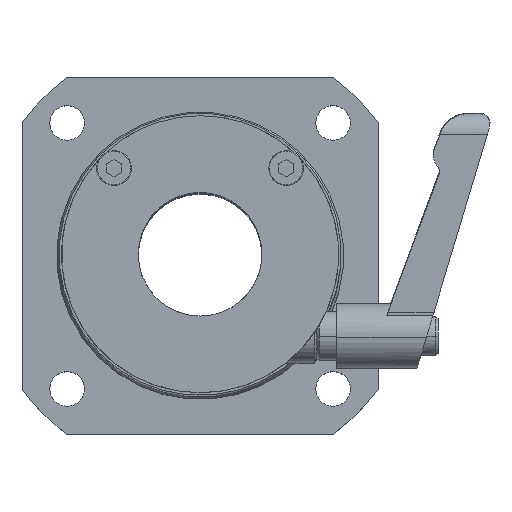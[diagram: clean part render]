
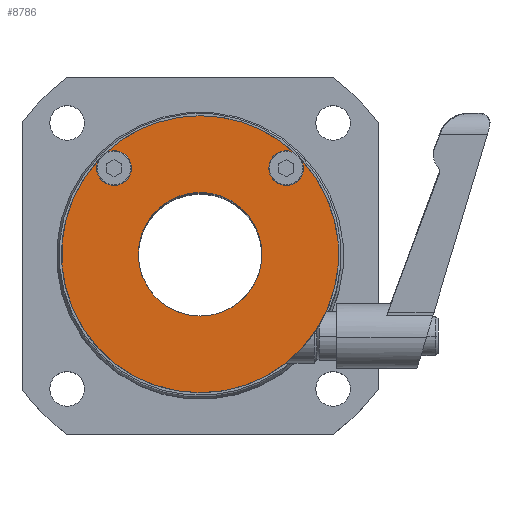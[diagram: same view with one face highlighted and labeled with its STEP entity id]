
A CAD part, top view. The second image highlights one B-rep face of the part: STEP entity #8786.
In plain terms, the highlighted planar face has unit normal (0, 0, 1).
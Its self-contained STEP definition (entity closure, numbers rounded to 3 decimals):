
#31 = EDGE_CURVE ( 'NONE', #4350, #498, #3753, .T. ) ;
#59 = DIRECTION ( 'NONE',  ( 0., 0., 1. ) ) ;
#100 = DIRECTION ( 'NONE',  ( 0., 0., 1. ) ) ;
#121 = CIRCLE ( 'NONE', #8831, 3.5 ) ;
#452 = VERTEX_POINT ( 'NONE', #5263 ) ;
#471 = EDGE_CURVE ( 'NONE', #9198, #6874, #946, .T. ) ;
#498 = VERTEX_POINT ( 'NONE', #4106 ) ;
#542 = FACE_OUTER_BOUND ( 'NONE', #679, .T. ) ;
#549 = EDGE_LOOP ( 'NONE', ( #4975, #9439 ) ) ;
#558 = EDGE_CURVE ( 'NONE', #3781, #5386, #9402, .T. ) ;
#591 = DIRECTION ( 'NONE',  ( 0., 0., 1. ) ) ;
#592 = ORIENTED_EDGE ( 'NONE', *, *, #558, .F. ) ;
#614 = CARTESIAN_POINT ( 'NONE',  ( 10.621, 16.844, 63.5 ) ) ;
#679 = EDGE_LOOP ( 'NONE', ( #8492, #9625, #592, #6168, #9638, #8297, #8794, #5773, #969, #5973 ) ) ;
#788 = EDGE_CURVE ( 'NONE', #4350, #9104, #3811, .T. ) ;
#837 = AXIS2_PLACEMENT_3D ( 'NONE', #614, #5203, #9018 ) ;
#865 = DIRECTION ( 'NONE',  ( 0., 0., 1. ) ) ;
#946 = CIRCLE ( 'NONE', #6363, 28. ) ;
#969 = ORIENTED_EDGE ( 'NONE', *, *, #6512, .F. ) ;
#1112 = EDGE_CURVE ( 'NONE', #9198, #4381, #8564, .T. ) ;
#1537 = FACE_BOUND ( 'NONE', #549, .T. ) ;
#1565 = DIRECTION ( 'NONE',  ( 0., 0., 1. ) ) ;
#1720 = CARTESIAN_POINT ( 'NONE',  ( -6.779, -0.556, 63.5 ) ) ;
#1783 = CIRCLE ( 'NONE', #7541, 3.5 ) ;
#1866 = CARTESIAN_POINT ( 'NONE',  ( 10.621, 16.844, 63.5 ) ) ;
#2296 = AXIS2_PLACEMENT_3D ( 'NONE', #1720, #1565, #4849 ) ;
#2448 = CARTESIAN_POINT ( 'NONE',  ( -20.679, 16.844, 63.5 ) ) ;
#3018 = AXIS2_PLACEMENT_3D ( 'NONE', #5673, #4806, #8804 ) ;
#3107 = EDGE_CURVE ( 'NONE', #6874, #6648, #8033, .T. ) ;
#3292 = CARTESIAN_POINT ( 'NONE',  ( 10.621, 16.844, 63.5 ) ) ;
#3314 = DIRECTION ( 'NONE',  ( 0., -1., 0. ) ) ;
#3377 = EDGE_CURVE ( 'NONE', #452, #5467, #8124, .T. ) ;
#3497 = CIRCLE ( 'NONE', #7613, 28. ) ;
#3654 = CIRCLE ( 'NONE', #10042, 3.5 ) ;
#3692 = CARTESIAN_POINT ( 'NONE',  ( 13.658, 18.583, 63.5 ) ) ;
#3753 = CIRCLE ( 'NONE', #4075, 3.5 ) ;
#3781 = VERTEX_POINT ( 'NONE', #4593 ) ;
#3807 = CARTESIAN_POINT ( 'NONE',  ( -6.779, -28.556, 63.5 ) ) ;
#3811 = CIRCLE ( 'NONE', #2296, 28. ) ;
#3984 = DIRECTION ( 'NONE',  ( 1., 0., 0. ) ) ;
#3993 = DIRECTION ( 'NONE',  ( 0., -1., 0. ) ) ;
#4075 = AXIS2_PLACEMENT_3D ( 'NONE', #7070, #5769, #6586 ) ;
#4106 = CARTESIAN_POINT ( 'NONE',  ( -27.679, 16.844, 63.5 ) ) ;
#4181 = DIRECTION ( 'NONE',  ( 1., 0., 0. ) ) ;
#4350 = VERTEX_POINT ( 'NONE', #4868 ) ;
#4381 = VERTEX_POINT ( 'NONE', #5009 ) ;
#4563 = DIRECTION ( 'NONE',  ( 0., 0., 1. ) ) ;
#4568 = CARTESIAN_POINT ( 'NONE',  ( -24.179, 16.844, 63.5 ) ) ;
#4593 = CARTESIAN_POINT ( 'NONE',  ( 14.121, 16.844, 63.5 ) ) ;
#4771 = CARTESIAN_POINT ( 'NONE',  ( 12.361, 19.881, 63.5 ) ) ;
#4806 = DIRECTION ( 'NONE',  ( 0., 0., 1. ) ) ;
#4849 = DIRECTION ( 'NONE',  ( 0., -1., 0. ) ) ;
#4868 = CARTESIAN_POINT ( 'NONE',  ( -27.216, 18.583, 63.5 ) ) ;
#4950 = AXIS2_PLACEMENT_3D ( 'NONE', #6822, #591, #5329 ) ;
#4975 = ORIENTED_EDGE ( 'NONE', *, *, #3377, .F. ) ;
#5009 = CARTESIAN_POINT ( 'NONE',  ( 7.121, 16.844, 63.5 ) ) ;
#5203 = DIRECTION ( 'NONE',  ( 0., 0., 1. ) ) ;
#5263 = CARTESIAN_POINT ( 'NONE',  ( -6.779, 11.944, 63.5 ) ) ;
#5296 = CIRCLE ( 'NONE', #3018, 12.5 ) ;
#5329 = DIRECTION ( 'NONE',  ( 0., -1., 0. ) ) ;
#5386 = VERTEX_POINT ( 'NONE', #3692 ) ;
#5467 = VERTEX_POINT ( 'NONE', #6621 ) ;
#5673 = CARTESIAN_POINT ( 'NONE',  ( -6.779, -0.556, 63.5 ) ) ;
#5769 = DIRECTION ( 'NONE',  ( 0., 0., 1. ) ) ;
#5773 = ORIENTED_EDGE ( 'NONE', *, *, #6007, .F. ) ;
#5819 = DIRECTION ( 'NONE',  ( 0., 0., 1. ) ) ;
#5973 = ORIENTED_EDGE ( 'NONE', *, *, #31, .F. ) ;
#6007 = EDGE_CURVE ( 'NONE', #8618, #6648, #121, .T. ) ;
#6133 = DIRECTION ( 'NONE',  ( 0., -1., 0. ) ) ;
#6155 = PLANE ( 'NONE',  #4950 ) ;
#6168 = ORIENTED_EDGE ( 'NONE', *, *, #8648, .F. ) ;
#6207 = CARTESIAN_POINT ( 'NONE',  ( -24.179, 16.844, 63.5 ) ) ;
#6363 = AXIS2_PLACEMENT_3D ( 'NONE', #7847, #59, #3314 ) ;
#6512 = EDGE_CURVE ( 'NONE', #498, #8618, #1783, .T. ) ;
#6586 = DIRECTION ( 'NONE',  ( 1., 0., 0. ) ) ;
#6621 = CARTESIAN_POINT ( 'NONE',  ( -6.779, -13.056, 63.5 ) ) ;
#6648 = VERTEX_POINT ( 'NONE', #7063 ) ;
#6822 = CARTESIAN_POINT ( 'NONE',  ( -6.779, -0.556, 63.5 ) ) ;
#6874 = VERTEX_POINT ( 'NONE', #9423 ) ;
#7063 = CARTESIAN_POINT ( 'NONE',  ( -25.918, 19.881, 63.5 ) ) ;
#7070 = CARTESIAN_POINT ( 'NONE',  ( -24.179, 16.844, 63.5 ) ) ;
#7145 = AXIS2_PLACEMENT_3D ( 'NONE', #8852, #9019, #9739 ) ;
#7220 = AXIS2_PLACEMENT_3D ( 'NONE', #8650, #100, #3993 ) ;
#7327 = CARTESIAN_POINT ( 'NONE',  ( -6.779, -0.556, 63.5 ) ) ;
#7529 = DIRECTION ( 'NONE',  ( 1., 0., 0. ) ) ;
#7541 = AXIS2_PLACEMENT_3D ( 'NONE', #4568, #10107, #7641 ) ;
#7613 = AXIS2_PLACEMENT_3D ( 'NONE', #7327, #4563, #6133 ) ;
#7641 = DIRECTION ( 'NONE',  ( 1., 0., 0. ) ) ;
#7847 = CARTESIAN_POINT ( 'NONE',  ( -6.779, -0.556, 63.5 ) ) ;
#8033 = CIRCLE ( 'NONE', #7220, 28. ) ;
#8124 = CIRCLE ( 'NONE', #7145, 12.5 ) ;
#8297 = ORIENTED_EDGE ( 'NONE', *, *, #471, .T. ) ;
#8492 = ORIENTED_EDGE ( 'NONE', *, *, #788, .T. ) ;
#8564 = CIRCLE ( 'NONE', #837, 3.5 ) ;
#8583 = AXIS2_PLACEMENT_3D ( 'NONE', #1866, #5819, #7529 ) ;
#8618 = VERTEX_POINT ( 'NONE', #2448 ) ;
#8648 = EDGE_CURVE ( 'NONE', #4381, #3781, #3654, .T. ) ;
#8650 = CARTESIAN_POINT ( 'NONE',  ( -6.779, -0.556, 63.5 ) ) ;
#8786 = ADVANCED_FACE ( 'NONE', ( #542, #1537 ), #6155, .T. ) ;
#8794 = ORIENTED_EDGE ( 'NONE', *, *, #3107, .T. ) ;
#8804 = DIRECTION ( 'NONE',  ( 0., -1., 0. ) ) ;
#8831 = AXIS2_PLACEMENT_3D ( 'NONE', #6207, #9362, #3984 ) ;
#8852 = CARTESIAN_POINT ( 'NONE',  ( -6.779, -0.556, 63.5 ) ) ;
#9018 = DIRECTION ( 'NONE',  ( 1., 0., 0. ) ) ;
#9019 = DIRECTION ( 'NONE',  ( 0., 0., 1. ) ) ;
#9104 = VERTEX_POINT ( 'NONE', #3807 ) ;
#9198 = VERTEX_POINT ( 'NONE', #4771 ) ;
#9362 = DIRECTION ( 'NONE',  ( 0., 0., 1. ) ) ;
#9402 = CIRCLE ( 'NONE', #8583, 3.5 ) ;
#9404 = EDGE_CURVE ( 'NONE', #9104, #5386, #3497, .T. ) ;
#9423 = CARTESIAN_POINT ( 'NONE',  ( -6.779, 27.444, 63.5 ) ) ;
#9439 = ORIENTED_EDGE ( 'NONE', *, *, #9614, .F. ) ;
#9614 = EDGE_CURVE ( 'NONE', #5467, #452, #5296, .T. ) ;
#9625 = ORIENTED_EDGE ( 'NONE', *, *, #9404, .T. ) ;
#9638 = ORIENTED_EDGE ( 'NONE', *, *, #1112, .F. ) ;
#9739 = DIRECTION ( 'NONE',  ( 0., -1., 0. ) ) ;
#10042 = AXIS2_PLACEMENT_3D ( 'NONE', #3292, #865, #4181 ) ;
#10107 = DIRECTION ( 'NONE',  ( 0., 0., 1. ) ) ;
